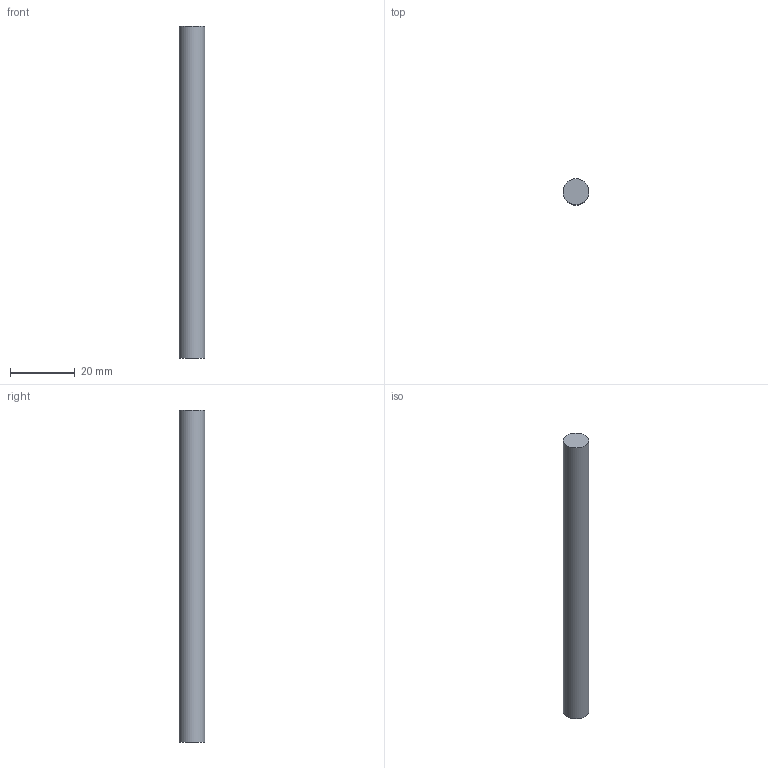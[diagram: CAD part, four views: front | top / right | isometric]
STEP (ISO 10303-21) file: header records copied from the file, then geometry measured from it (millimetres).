
FILE_DESCRIPTION(('FreeCAD Model'),'2;1');
FILE_NAME('Open CASCADE Shape Model','2026-10-30T14:44:59',('FreeCAD'),( 'FreeCAD'),'Open CASCADE STEP processor 7.8','FreeCAD','Unknown');
FILE_SCHEMA(('AUTOMOTIVE_DESIGN { 1 0 10303 214 1 1 1 1 }'));
Length unit declared in the file: millimetre
Products named in the file (1): Open CASCADE STEP translator 7.8 12
Bounding box: 8 x 8 x 102.65 mm (x, y, z)
Volume: 5159.8 mm3; surface area: 2680.4 mm2
Topology: 1 solids, 1 shells, 3 faces, 3 edges, 2 vertices
Faces by surface type: plane 2, cylinder 1
Full cylindrical faces by diameter (mm): 8 x1
Entity records: 69 total; most frequent: DIRECTION 13, CARTESIAN_POINT 9, AXIS2_PLACEMENT_3D 6, ORIENTED_EDGE 6, ADVANCED_FACE 3, FACE_BOUND 3, EDGE_LOOP 3, EDGE_CURVE 3
